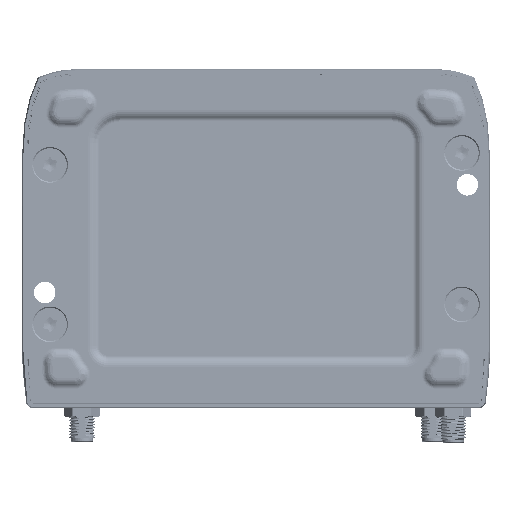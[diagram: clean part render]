
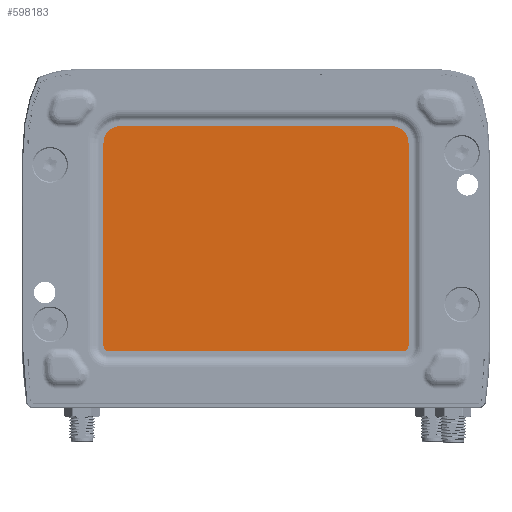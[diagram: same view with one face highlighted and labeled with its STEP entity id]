
A CAD part, front view. The second image highlights one B-rep face of the part: STEP entity #598183.
In plain terms, the highlighted planar face has unit normal (0, -1, 0).
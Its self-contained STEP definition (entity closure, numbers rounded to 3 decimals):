
#597940=CARTESIAN_POINT('',(37.,-32.75,15.5));
#597941=DIRECTION('',(0.,1.,0.));
#597942=DIRECTION('',(1.,0.,0.));
#597943=AXIS2_PLACEMENT_3D('',#597940,#597941,#597942);
#597948=DIRECTION('',(-1.,0.,0.));
#597949=VECTOR('',#597948,74.);
#597950=CARTESIAN_POINT('',(37.,-32.75,14.25));
#597951=LINE('',#597950,#597949);
#597955=CARTESIAN_POINT('',(-37.,-32.75,15.5));
#597956=DIRECTION('',(0.,1.,0.));
#597957=DIRECTION('',(0.,0.,-1.));
#597958=AXIS2_PLACEMENT_3D('',#597955,#597956,#597957);
#597963=DIRECTION('',(0.,0.,1.));
#597964=VECTOR('',#597963,51.);
#597965=CARTESIAN_POINT('',(-38.25,-32.75,15.5));
#597966=LINE('',#597965,#597964);
#597970=CARTESIAN_POINT('',(-34.,-32.75,66.5));
#597971=DIRECTION('',(0.,1.,0.));
#597972=DIRECTION('',(-1.,0.,0.));
#597973=AXIS2_PLACEMENT_3D('',#597970,#597971,#597972);
#597978=DIRECTION('',(1.,0.,0.));
#597979=VECTOR('',#597978,68.);
#597980=CARTESIAN_POINT('',(-34.,-32.75,70.75));
#597981=LINE('',#597980,#597979);
#597985=CARTESIAN_POINT('',(34.,-32.75,66.5));
#597986=DIRECTION('',(0.,1.,0.));
#597987=DIRECTION('',(0.,0.,1.));
#597988=AXIS2_PLACEMENT_3D('',#597985,#597986,#597987);
#597993=DIRECTION('',(0.,0.,-1.));
#597994=VECTOR('',#597993,51.);
#597995=CARTESIAN_POINT('',(38.25,-32.75,66.5));
#597996=LINE('',#597995,#597994);
#598016=CARTESIAN_POINT('',(38.25,-32.75,15.5));
#598017=CARTESIAN_POINT('',(37.,-32.75,14.25));
#598018=VERTEX_POINT('',#598016);
#598019=VERTEX_POINT('',#598017);
#598020=CARTESIAN_POINT('',(-37.,-32.75,14.25));
#598021=VERTEX_POINT('',#598020);
#598022=CARTESIAN_POINT('',(-38.25,-32.75,15.5));
#598023=VERTEX_POINT('',#598022);
#598024=CARTESIAN_POINT('',(-38.25,-32.75,66.5));
#598025=VERTEX_POINT('',#598024);
#598026=CARTESIAN_POINT('',(-34.,-32.75,70.75));
#598027=VERTEX_POINT('',#598026);
#598028=CARTESIAN_POINT('',(34.,-32.75,70.75));
#598029=VERTEX_POINT('',#598028);
#598030=CARTESIAN_POINT('',(38.25,-32.75,66.5));
#598031=VERTEX_POINT('',#598030);
#598168=CARTESIAN_POINT('',(0.,-32.75,0.));
#598169=DIRECTION('',(0.,1.,0.));
#598170=DIRECTION('',(0.,0.,-1.));
#598171=AXIS2_PLACEMENT_3D('',#598168,#598169,#598170);
#598172=PLANE('',#598171);
#598173=ORIENTED_EDGE('',*,*,#598064,.T.);
#598174=ORIENTED_EDGE('',*,*,#598079,.T.);
#598175=ORIENTED_EDGE('',*,*,#598093,.T.);
#598176=ORIENTED_EDGE('',*,*,#598107,.T.);
#598177=ORIENTED_EDGE('',*,*,#598121,.T.);
#598178=ORIENTED_EDGE('',*,*,#598135,.T.);
#598179=ORIENTED_EDGE('',*,*,#598149,.T.);
#598180=ORIENTED_EDGE('',*,*,#598162,.T.);
#598181=EDGE_LOOP('',(#598173,#598174,#598175,#598176,#598177,#598178,#598179,
#598180));
#598182=FACE_OUTER_BOUND('',#598181,.F.);
#598183=ADVANCED_FACE('',(#598182),#598172,.F.);
#597944=CIRCLE('',#597943,1.25);
#597959=CIRCLE('',#597958,1.25);
#597974=CIRCLE('',#597973,4.25);
#597989=CIRCLE('',#597988,4.25);
#598064=EDGE_CURVE('',#598018,#598019,#597944,.T.);
#598079=EDGE_CURVE('',#598019,#598021,#597951,.T.);
#598093=EDGE_CURVE('',#598021,#598023,#597959,.T.);
#598107=EDGE_CURVE('',#598023,#598025,#597966,.T.);
#598121=EDGE_CURVE('',#598025,#598027,#597974,.T.);
#598135=EDGE_CURVE('',#598027,#598029,#597981,.T.);
#598149=EDGE_CURVE('',#598029,#598031,#597989,.T.);
#598162=EDGE_CURVE('',#598031,#598018,#597996,.T.);
